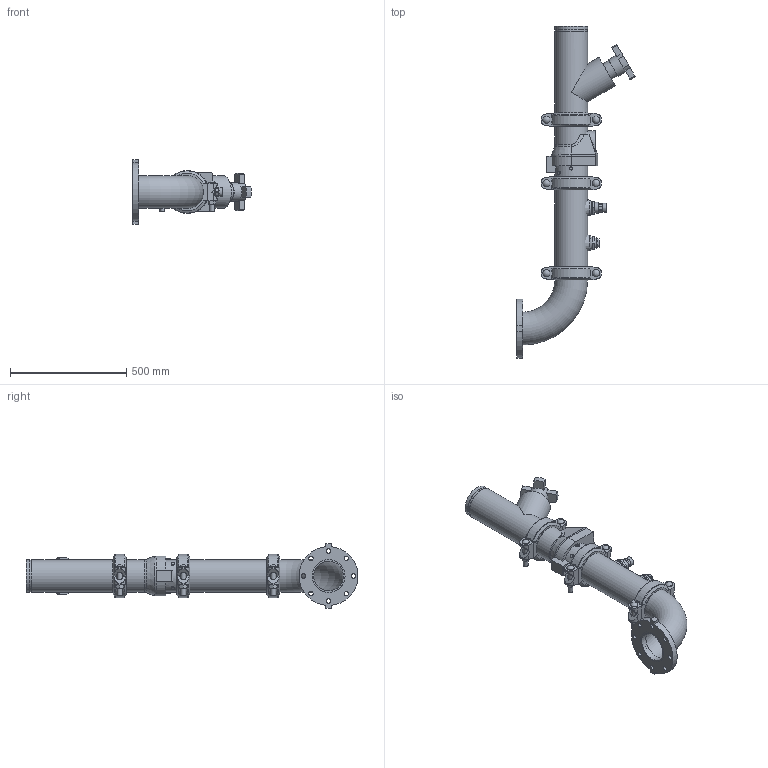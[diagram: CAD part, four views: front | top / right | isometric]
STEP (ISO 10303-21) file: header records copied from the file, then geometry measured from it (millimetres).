
FILE_DESCRIPTION(/* description */ ('VIC DVI PUMP DROP HORZ S/383 (OGSxFLG) (S/924-0.75)','CAx-IF Rec.Pracs.---Representation and Presentation of Product Manufacturing Information (PMI)---4.0---2014-10-13'),/* implementation_level */ '2;1');
FILE_NAME(/* name */ 'C:\Users\Vjadhav\AppData\Roaming\Autodesk\ApplicationPlugins\Victaulic.Temp\A892\Victaulic_IPS_Horizontal DVI_CL 150_Series 383 (OGSxFLG)_924 (0.75)_05.0x05.0 (125x125).stp',/* time_stamp */ '2022-02-28T15:43:44+05:00',/* author */ ('kkamble'),/* organization */ ('Victaulic'),/* preprocessor_version */ 'ST-DEVELOPER v17.2',/* originating_system */ 'Autodesk Inventor 2019',/* authorisation */ '');
FILE_SCHEMA (('AP242_MANAGED_MODEL_BASED_3D_ENGINEERING_MIM_LF { 1 0 10303 442 1 1 4 }'));
Length unit declared in the file: inch
Products named in the file (9): 383-924 (0.75)-05.0x05.0; 741-05.0; Pipe-05.0x05.0; 789-05.0; 177N-05.0; 779-05.0; 924-04.0x0.75; 923-04.0x0.75; 100-05.0
Assembly tree (10 placements, depth 2):
  383-924 (0.75)-05.0x05.0
    177N-05.0  x3
    741-05.0
    Pipe-05.0x05.0
    789-05.0
    779-05.0
    924-04.0x0.75
    923-04.0x0.75
    100-05.0
Bounding box: 511.3 x 1429.86 x 279.4 mm (x, y, z)
Volume: 11597956.7 mm3; surface area: 1952655.5 mm2
Topology: 10 solids, 10 shells, 532 faces, 1427 edges, 952 vertices
Faces by surface type: plane 310, cylinder 177, torus 20, cone 17, sphere 6, bspline 2
Full cylindrical faces by diameter (mm): 13.716 x4, 19.05 x8, 21.209 x6, 26.67 x2, 30.48 x6, 38.608 x1, 45.974 x4, 55.626 x2, 75.26 x1, 82.55 x1, 128.194 x5, 128.6 x3, 137.033 x8, 141.3 x20
Entity records: 12047 total; most frequent: CARTESIAN_POINT 2447, DIRECTION 1972, ORIENTED_EDGE 1802, EDGE_CURVE 901, AXIS2_PLACEMENT_3D 751, VERTEX_POINT 608, LINE 470, VECTOR 470
